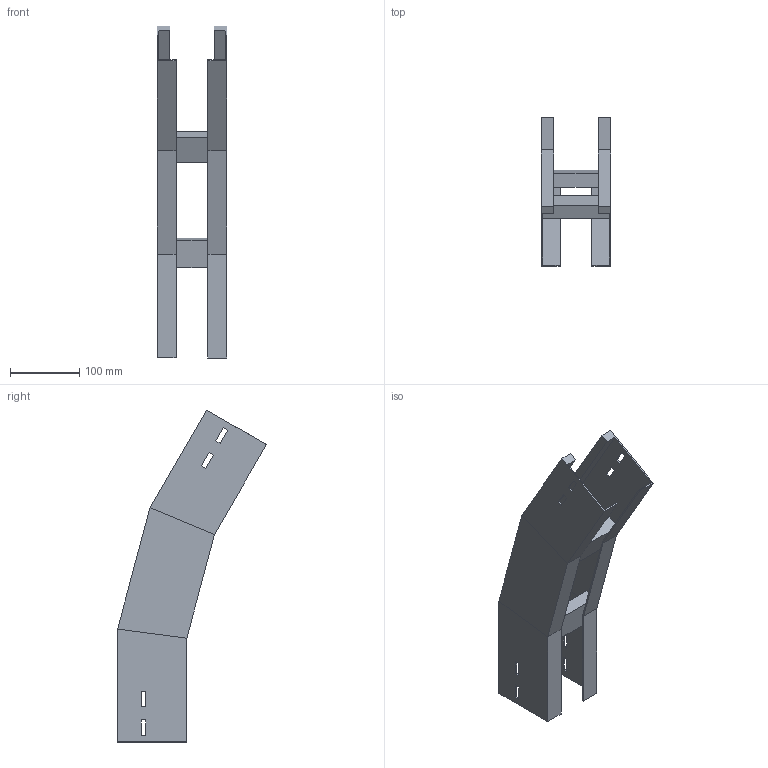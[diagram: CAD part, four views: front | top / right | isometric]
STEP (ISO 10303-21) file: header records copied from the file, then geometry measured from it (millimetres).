
FILE_DESCRIPTION (( 'STEP AP214' ), '1' );
FILE_NAME ('A2_35B3D100.step', '2025-02-21T14:46:05', ( '' ), ( '' ), 'SwSTEP 2.0', 'SolidWorks 2023', '' );
FILE_SCHEMA (( 'AUTOMOTIVE_DESIGN' ));
Length unit declared in the file: millimetre
Products named in the file (3): TRAVERSINO_100; LONGH.DISCESA_30°_H100_R300; A2_35B3D100
Assembly tree (5 placements, depth 2):
  A2_35B3D100
    LONGH.DISCESA_30°_H100_R300  x2
    TRAVERSINO_100  x3
Bounding box: 100 x 215.12 x 479.62 mm (x, y, z)
Volume: 662629.4 mm3; surface area: 314163.6 mm2
Topology: 5 solids, 5 shells, 102 faces, 244 edges, 152 vertices
Faces by surface type: plane 102
Entity records: 1480 total; most frequent: CARTESIAN_POINT 244, ORIENTED_EDGE 232, DIRECTION 228, EDGE_CURVE 116, VECTOR 116, LINE 116, VERTEX_POINT 72, AXIS2_PLACEMENT_3D 56
